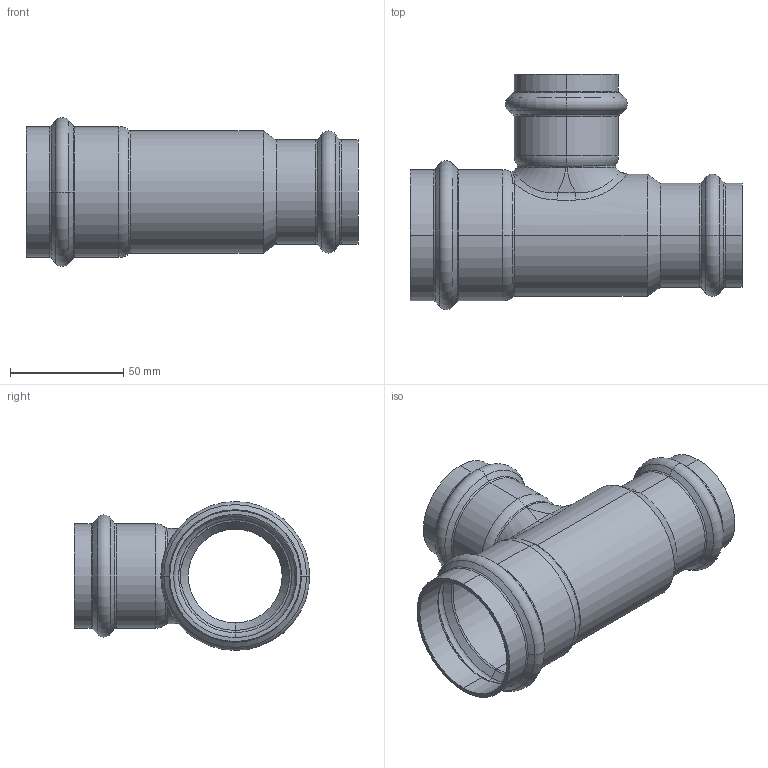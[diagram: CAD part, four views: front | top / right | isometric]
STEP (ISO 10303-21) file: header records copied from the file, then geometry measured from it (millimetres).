
FILE_DESCRIPTION (( 'STEP AP203' ), '1' );
FILE_NAME ('SP5130 Ø54-42-42.STEP', '2017-04-25T15:13:06', ( '' ), ( '' ), 'SwSTEP 2.0', 'SolidWorks 2016', '' );
FILE_SCHEMA (( 'CONFIG_CONTROL_DESIGN' ));
Length unit declared in the file: millimetre
Products named in the file (1): SP5130 Ø54-42-42
Bounding box: 146.5 x 103.85 x 65.7 mm (x, y, z)
Volume: 64123.9 mm3; surface area: 63036.7 mm2
Topology: 1 solids, 1 shells, 138 faces, 303 edges, 164 vertices
Faces by surface type: torus 55, cylinder 35, cone 30, bspline 13, plane 5
Entity records: 5882 total; most frequent: CARTESIAN_POINT 2784, DIRECTION 714, ORIENTED_EDGE 602, AXIS2_PLACEMENT_3D 324, EDGE_CURVE 301, CIRCLE 198, VERTEX_POINT 164, EDGE_LOOP 141
